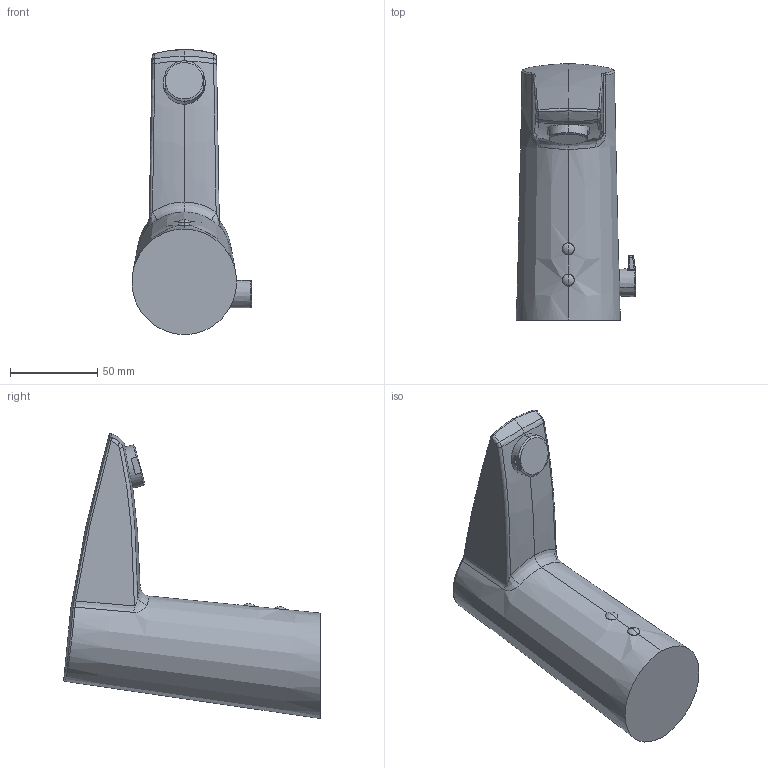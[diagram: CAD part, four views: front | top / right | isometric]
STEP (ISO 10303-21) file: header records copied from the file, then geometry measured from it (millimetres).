
FILE_DESCRIPTION (( 'STEP AP203' ), '1' );
FILE_NAME ('2824FT+64912010.STEP', '2017-11-01T07:05:20', ( '' ), ( '' ), 'SwSTEP 2.0', 'SolidWorks 2016', '' );
FILE_SCHEMA (( 'CONFIG_CONTROL_DESIGN' ));
Length unit declared in the file: millimetre
Products named in the file (1): 2824FT+64912010
Bounding box: 68.75 x 146.96 x 163.45 mm (x, y, z)
Volume: 461330.7 mm3; surface area: 42106.1 mm2
Topology: 1 solids, 1 shells, 82 faces, 194 edges, 115 vertices
Faces by surface type: bspline 51, cone 10, plane 9, sphere 6, torus 4, cylinder 2
Entity records: 5280 total; most frequent: CARTESIAN_POINT 3677, ORIENTED_EDGE 388, DIRECTION 222, EDGE_CURVE 194, VERTEX_POINT 115, B_SPLINE_CURVE_WITH_KNOTS 101, AXIS2_PLACEMENT_3D 99, EDGE_LOOP 83
